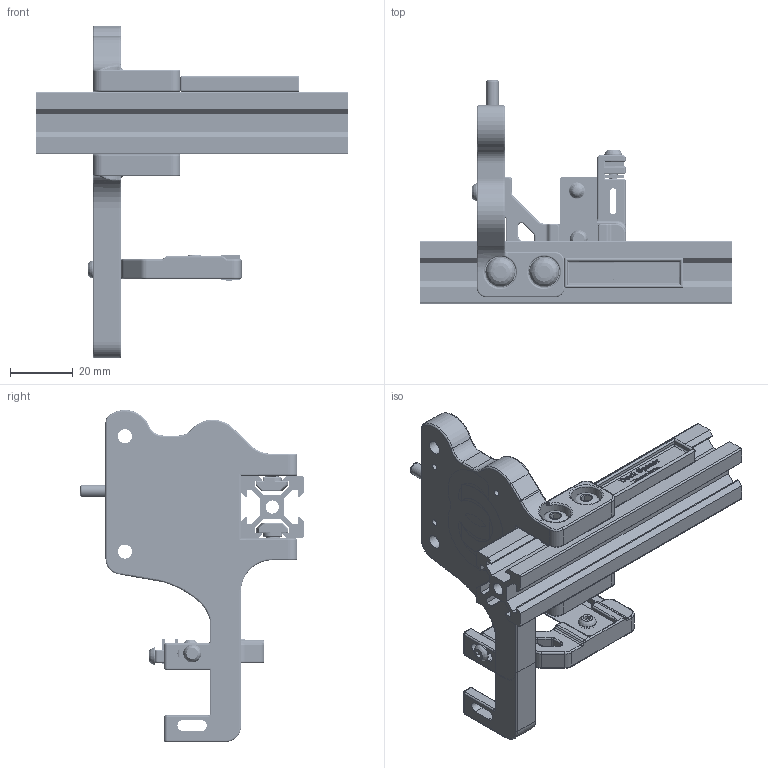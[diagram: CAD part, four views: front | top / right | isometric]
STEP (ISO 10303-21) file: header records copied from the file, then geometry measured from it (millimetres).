
FILE_DESCRIPTION(/* description */ ('','CAx-IF Rec.Pracs.---Representation and Presentation of Product Manufacturing Information (PMI)---4.0---2014-10-13'),/* implementation_level */ '2;1');
FILE_NAME(/* name */ 'Lineux One Dock v23.step',/* time_stamp */ '2024-12-18T10:44:40+07:00',/* author */ (''),/* organization */ (''),/* preprocessor_version */ 'ST-DEVELOPER v20',/* originating_system */ 'Autodesk Translation Framework v13.20.0.188',/* authorisation */ '');
FILE_SCHEMA (('AP242_MANAGED_MODEL_BASED_3D_ENGINEERING_MIM_LF { 1 0 10303 442 1 1 4 }'));
Products named in the file (37): Lineux One Dock; Dock; 2020 Extrusion (1); Silicon Wall (2); Silicon Wall (2) (1); Silicon Wall (3) (1); Hardware (2); m5 t nut; m5 t nut (1); m5 x 8mm bhcs (1) (1); m5 t nut (1) (1); m5 x 8mm bhcs (1); m5 t nut (2); m5 x 8mm bhcs; m3 brass insert (14); m3 washer; m3 x 8mm bhcs (1); m3 x 6mm bhcs (1) (1); m4 x 15mm threaded dowel pin ID (m3); m3 x 10mm bhcs (2); spring OD6 ID5 17mm; m5 x 8mm bhcs (2); m3 hex nut (3) (1); AA battery terminal (1); m3 x 10mm bhcs; Magnet; 8 x 5mm magnet (7); 8 x 5mm magnet (1) (1); 8 x 5mm magnet (1) (1) (1); 8 x 5mm magnet (1) (2); Printed Parts (2); Lineux Logo Dock Red; Lineux Logo Dock Blue; Dock Body; Dock Spacer Template; Nozzle Blocker Mount r2; Dock Body Goliath
Assembly tree (36 placements, depth 4):
  Lineux One Dock
    Dock
      2020 Extrusion (1)
      Silicon Wall (2)
        Silicon Wall (2) (1)
        Silicon Wall (3) (1)
      Hardware (2)
        m5 t nut
        m5 t nut (1)
        m5 x 8mm bhcs (1) (1)
        m5 t nut (1) (1)
        m5 x 8mm bhcs (1)
        m5 t nut (2)
        m5 x 8mm bhcs
        m3 brass insert (14)
        m3 washer
        m3 x 8mm bhcs (1)
        m3 x 6mm bhcs (1) (1)
        m4 x 15mm threaded dowel pin ID (m3)
        m3 x 10mm bhcs (2)
        spring OD6 ID5 17mm
        m5 x 8mm bhcs (2)
        m3 hex nut (3) (1)
        AA battery terminal (1)
        m3 x 10mm bhcs
      Magnet
        8 x 5mm magnet (7)
        8 x 5mm magnet (1) (1)
        8 x 5mm magnet (1) (1) (1)
        8 x 5mm magnet (1) (2)
      Printed Parts (2)
        Lineux Logo Dock Red
        Lineux Logo Dock Blue
        Dock Body
        Dock Spacer Template
        Nozzle Blocker Mount r2
        Dock Body Goliath
Bounding box: 100 x 71.3 x 106.09 mm (x, y, z)
Volume: 74313.9 mm3; surface area: 54260.1 mm2
Topology: 31 solids, 31 shells, 3078 faces, 7721 edges, 4740 vertices
Faces by surface type: cylinder 1216, plane 730, bspline 661, torus 240, sphere 162, cone 69
Full cylindrical faces by diameter (mm): 2 x8, 2.356 x68, 2.376 x10, 2.5 x5, 2.529 x10, 2.9 x3, 2.927 x64, 3 x1, 3.086 x5, 3.2 x2, 3.4 x3, 3.505 x1, 3.564 x1, 3.99 x12, 4 x1, 4.2 x23, 4.5 x4, 4.7 x1, 4.751 x1, 4.901 x24, 5.066 x20, 5.5 x8, 5.7 x4, 6.5 x2, 6.7 x1, 8 x4, 8.1 x8, 10 x8
Entity records: 155358 total; most frequent: CARTESIAN_POINT 85100, ORIENTED_EDGE 15342, DIRECTION 13398, EDGE_CURVE 7671, AXIS2_PLACEMENT_3D 5155, VERTEX_POINT 4740, EDGE_LOOP 3245, LINE 3088
